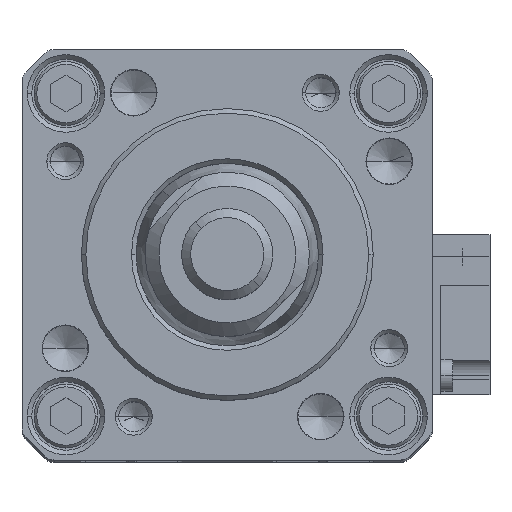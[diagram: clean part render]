
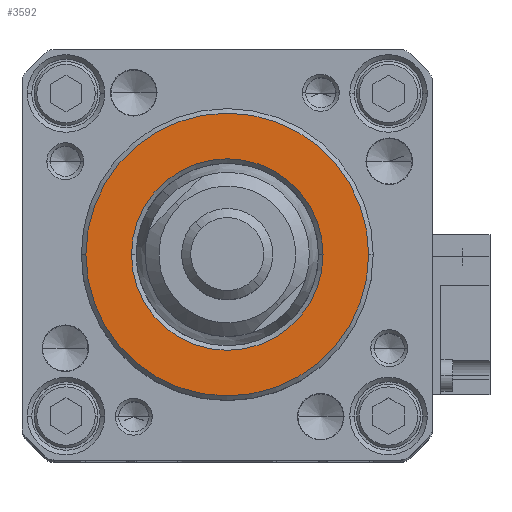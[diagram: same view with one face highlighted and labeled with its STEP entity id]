
A CAD part, top view. The second image highlights one B-rep face of the part: STEP entity #3592.
In plain terms, the highlighted planar face has unit normal (0, 0, 1).
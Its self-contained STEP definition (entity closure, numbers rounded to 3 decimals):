
#30 = EDGE_LOOP ( 'NONE', ( #14513, #12020 ) ) ;
#58 = AXIS2_PLACEMENT_3D ( 'NONE', #26035, #13669, #1238 ) ;
#626 = CARTESIAN_POINT ( 'NONE',  ( -10.5, 0., 157. ) ) ;
#652 = CARTESIAN_POINT ( 'NONE',  ( 0., 0., 157. ) ) ;
#1095 = VERTEX_POINT ( 'NONE', #626 ) ;
#1238 = DIRECTION ( 'NONE',  ( 1., 0., 0. ) ) ;
#1320 = CARTESIAN_POINT ( 'NONE',  ( 15.5, 0., 157. ) ) ;
#2044 = EDGE_CURVE ( 'NONE', #5427, #13109, #17340, .T. ) ;
#2678 = EDGE_LOOP ( 'NONE', ( #24601, #11746 ) ) ;
#2727 = DIRECTION ( 'NONE',  ( 1., 0., 0. ) ) ;
#3173 = CARTESIAN_POINT ( 'NONE',  ( 0., 0., 157. ) ) ;
#3592 = ADVANCED_FACE ( 'NONE', ( #6132, #22608 ), #22286, .T. ) ;
#3640 = CARTESIAN_POINT ( 'NONE',  ( 0., 0., 157. ) ) ;
#3982 = CIRCLE ( 'NONE', #7154, 15.5 ) ;
#5249 = DIRECTION ( 'NONE',  ( 1., 0., 0. ) ) ;
#5427 = VERTEX_POINT ( 'NONE', #1320 ) ;
#5711 = DIRECTION ( 'NONE',  ( 1., 0., 0. ) ) ;
#5806 = AXIS2_PLACEMENT_3D ( 'NONE', #3640, #18108, #5711 ) ;
#6132 = FACE_BOUND ( 'NONE', #30, .T. ) ;
#7154 = AXIS2_PLACEMENT_3D ( 'NONE', #3173, #17660, #5249 ) ;
#7850 = CARTESIAN_POINT ( 'NONE',  ( 0., 0., 157. ) ) ;
#8032 = CIRCLE ( 'NONE', #5806, 10.5 ) ;
#11746 = ORIENTED_EDGE ( 'NONE', *, *, #2044, .T. ) ;
#12020 = ORIENTED_EDGE ( 'NONE', *, *, #22824, .T. ) ;
#12030 = DIRECTION ( 'NONE',  ( 1., 0., 0. ) ) ;
#12459 = CARTESIAN_POINT ( 'NONE',  ( 10.5, 0., 157. ) ) ;
#13109 = VERTEX_POINT ( 'NONE', #16154 ) ;
#13669 = DIRECTION ( 'NONE',  ( 0., 0., -1. ) ) ;
#14513 = ORIENTED_EDGE ( 'NONE', *, *, #21697, .T. ) ;
#15150 = DIRECTION ( 'NONE',  ( 0., 0., 1. ) ) ;
#16154 = CARTESIAN_POINT ( 'NONE',  ( -15.5, 0., 157. ) ) ;
#16898 = AXIS2_PLACEMENT_3D ( 'NONE', #7850, #24362, #12030 ) ;
#17340 = CIRCLE ( 'NONE', #26036, 15.5 ) ;
#17660 = DIRECTION ( 'NONE',  ( 0., 0., 1. ) ) ;
#18108 = DIRECTION ( 'NONE',  ( 0., 0., -1. ) ) ;
#20312 = CIRCLE ( 'NONE', #58, 10.5 ) ;
#21104 = EDGE_CURVE ( 'NONE', #13109, #5427, #3982, .T. ) ;
#21697 = EDGE_CURVE ( 'NONE', #26649, #1095, #20312, .T. ) ;
#22286 = PLANE ( 'NONE',  #16898 ) ;
#22608 = FACE_OUTER_BOUND ( 'NONE', #2678, .T. ) ;
#22824 = EDGE_CURVE ( 'NONE', #1095, #26649, #8032, .T. ) ;
#24362 = DIRECTION ( 'NONE',  ( 0., 0., 1. ) ) ;
#24601 = ORIENTED_EDGE ( 'NONE', *, *, #21104, .T. ) ;
#26035 = CARTESIAN_POINT ( 'NONE',  ( 0., 0., 157. ) ) ;
#26036 = AXIS2_PLACEMENT_3D ( 'NONE', #652, #15150, #2727 ) ;
#26649 = VERTEX_POINT ( 'NONE', #12459 ) ;
